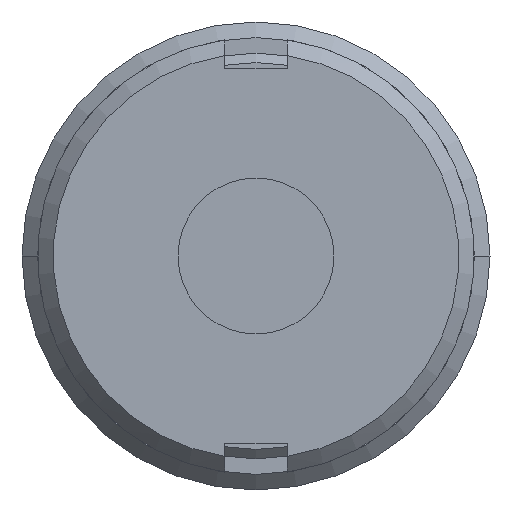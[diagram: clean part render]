
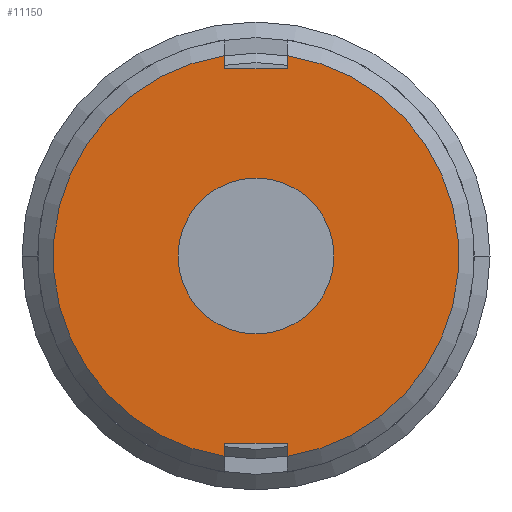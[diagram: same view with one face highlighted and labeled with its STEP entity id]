
A CAD part, left-side view. The second image highlights one B-rep face of the part: STEP entity #11150.
In plain terms, the highlighted planar face has unit normal (-1, 0, 0).
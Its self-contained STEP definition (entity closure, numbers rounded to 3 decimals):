
#10080=CARTESIAN_POINT('',(15.91,2.775,
-6.423));
#10090=VERTEX_POINT('',#10080);
#10280=CARTESIAN_POINT('',(15.91,2.775,
6.423));
#10290=VERTEX_POINT('',#10280);
#10320=CARTESIAN_POINT('',(15.91,1.775,0.));
#10330=DIRECTION('',(1.,0.,0.));
#10340=DIRECTION('',(0.,1.,0.));
#10350=AXIS2_PLACEMENT_3D('',#10320,#10330,#10340);
#10360=CIRCLE('',#10350,6.5);
#10370=EDGE_CURVE('',#10090,#10290,#10360,.T.);
#10420=CARTESIAN_POINT('',(15.91,6.275,0.));
#10430=DIRECTION('',(1.,0.,0.));
#10440=DIRECTION('',(0.,-1.,0.));
#10450=AXIS2_PLACEMENT_3D('',#10420,#10430,#10440);
#10460=PLANE('',#10450);
#10470=CARTESIAN_POINT('',(15.91,1.775,0.));
#10480=DIRECTION('',(1.,0.,0.));
#10490=DIRECTION('',(0.,1.,0.));
#10500=AXIS2_PLACEMENT_3D('',#10470,#10480,#10490);
#10510=CIRCLE('',#10500,2.5);
#10520=CARTESIAN_POINT('',(15.91,4.275,
0.));
#10530=VERTEX_POINT('',#10520);
#10540=CARTESIAN_POINT('',(15.91,-0.725,0.));
#10550=VERTEX_POINT('',#10540);
#10560=EDGE_CURVE('',#10530,#10550,#10510,.T.);
#10570=ORIENTED_EDGE('',*,*,#10560,.T.);
#10580=EDGE_CURVE('',#10550,#10530,#10510,.T.);
#10590=ORIENTED_EDGE('',*,*,#10580,.T.);
#10600=EDGE_LOOP('',(#10590,#10570));
#10610=FACE_BOUND('',#10600,.T.);
#10620=CARTESIAN_POINT('',(15.91,2.775,0.));
#10630=DIRECTION('',(0.,0.,-1.));
#10640=VECTOR('',#10630,1.);
#10650=LINE('',#10620,#10640);
#10660=CARTESIAN_POINT('',(15.91,2.775,6.));
#10670=VERTEX_POINT('',#10660);
#10680=EDGE_CURVE('',#10290,#10670,#10650,.T.);
#10690=ORIENTED_EDGE('',*,*,#10680,.F.);
#10700=CARTESIAN_POINT('',(15.91,0.,6.));
#10710=DIRECTION('',(0.,-1.,0.));
#10720=VECTOR('',#10710,1.);
#10730=LINE('',#10700,#10720);
#10740=CARTESIAN_POINT('',(15.91,0.775,6.));
#10750=VERTEX_POINT('',#10740);
#10760=EDGE_CURVE('',#10670,#10750,#10730,.T.);
#10770=ORIENTED_EDGE('',*,*,#10760,.F.);
#10780=CARTESIAN_POINT('',(15.91,0.775,0.));
#10790=DIRECTION('',(0.,0.,1.));
#10800=VECTOR('',#10790,1.);
#10810=LINE('',#10780,#10800);
#10820=CARTESIAN_POINT('',(15.91,0.775,
6.423));
#10830=VERTEX_POINT('',#10820);
#10840=EDGE_CURVE('',#10750,#10830,#10810,.T.);
#10850=ORIENTED_EDGE('',*,*,#10840,.F.);
#10860=CARTESIAN_POINT('',(15.91,0.775,
-6.423));
#10870=VERTEX_POINT('',#10860);
#10880=EDGE_CURVE('',#10830,#10870,#10360,.T.);
#10890=ORIENTED_EDGE('',*,*,#10880,.F.);
#10900=CARTESIAN_POINT('',(15.91,0.775,0.));
#10910=DIRECTION('',(0.,0.,1.));
#10920=VECTOR('',#10910,1.);
#10930=LINE('',#10900,#10920);
#10940=CARTESIAN_POINT('',(15.91,0.775,-6.));
#10950=VERTEX_POINT('',#10940);
#10960=EDGE_CURVE('',#10870,#10950,#10930,.T.);
#10970=ORIENTED_EDGE('',*,*,#10960,.F.);
#10980=CARTESIAN_POINT('',(15.91,0.,-6.));
#10990=DIRECTION('',(0.,1.,0.));
#11000=VECTOR('',#10990,1.);
#11010=LINE('',#10980,#11000);
#11020=CARTESIAN_POINT('',(15.91,2.775,-6.));
#11030=VERTEX_POINT('',#11020);
#11040=EDGE_CURVE('',#10950,#11030,#11010,.T.);
#11050=ORIENTED_EDGE('',*,*,#11040,.F.);
#11060=CARTESIAN_POINT('',(15.91,2.775,0.));
#11070=DIRECTION('',(0.,0.,-1.));
#11080=VECTOR('',#11070,1.);
#11090=LINE('',#11060,#11080);
#11100=EDGE_CURVE('',#11030,#10090,#11090,.T.);
#11110=ORIENTED_EDGE('',*,*,#11100,.F.);
#11120=ORIENTED_EDGE('',*,*,#10370,.F.);
#11130=EDGE_LOOP('',(#11120,#11110,#11050,#10970,#10890,#10850,#10770,
#10690));
#11140=FACE_OUTER_BOUND('',#11130,.T.);
#11150=ADVANCED_FACE('',(#10610,#11140),#10460,.F.);
